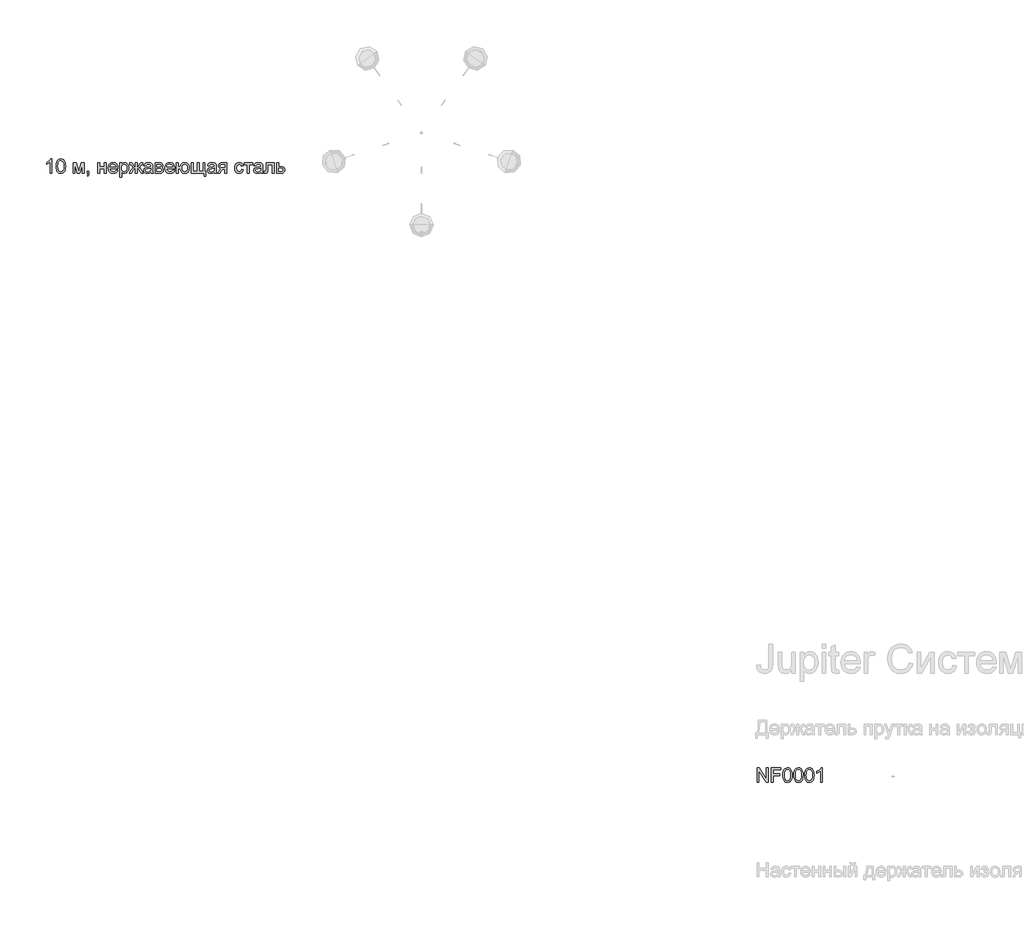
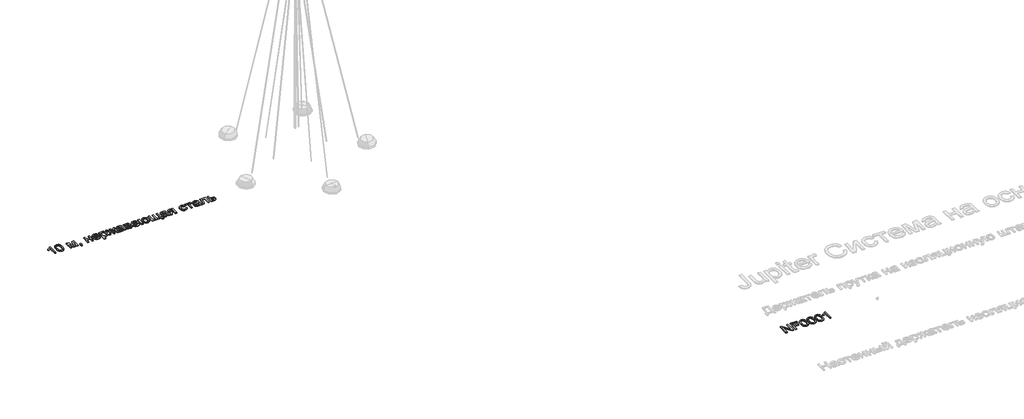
# One storey, part 34 of 124: 2 proxies.
"""IFC4 building model written with IfcOpenShell, lengths in millimetres."""

from ifc_helpers import new_model, si_unit, origin, origin_with_axes, place, context, project, spatial, polyline, outline, extrude, element, save

model = new_model("IFC4")

# Units and contexts
model_context = context("Model", 3, world=origin())
ifc_project = project(units=[si_unit("LENGTHUNIT", "METRE", prefix="MILLI")], contexts=[model_context])

# Site, building, storey
site = spatial("IfcSite", under=ifc_project)
building = spatial("IfcBuilding", under=site)
storey = spatial("IfcBuildingStorey", under=building, Name="Этаж 01", Elevation=0.0)

# Proxies
placement = place(None, origin())
element("IfcBuildingElementProxy", 1, Name="300", ObjectType="300", at=placement, inside=storey, context=model_context, shape_type="SweptSolid", body=[
    extrude(outline(polyline([(10526.9620852, -80707.4605888), (10489.2909689, -80707.4605888), (10489.2909689, -80472.604723), (10453.6064154, -80498.0253689), (10413.9487363, -80517.0448681), (10413.9487363, -80481.4338909), (10443.5356458, -80465.3390536), (10469.1678238, -80446.1907958), (10489.3737424, -80425.8285274), (10502.6818735, -80406.0916583), (10526.9620852, -80406.0916583), (10526.9620852, -80707.4605888)])), origin_with_axes(), (0.0, 0.0, 1.0), 20.0),
    extrude(outline(polyline([(10616.4309865, -80559.2041447), (10619.1992985, -80510.9656181), (10627.5042345, -80472.4943585), (10641.2630211, -80443.2017546), (10660.3928849, -80422.4991953), (10685.0317815, -80410.1935426), (10715.3176668, -80406.0916583), (10738.5310207, -80408.5196795), (10759.3163534, -80415.803743), (10776.6987777, -80427.6587403), (10789.7034062, -80443.7995628), (10799.5258555, -80464.0882549), (10807.361742, -80488.3868606), (10812.4936958, -80519.242963), (10814.2043471, -80559.2041447), (10811.4636262, -80607.1667598), (10803.2414636, -80645.546049), (10789.5654504, -80674.866244), (10770.4631778, -80695.6515767), (10745.7690989, -80708.0400029), (10715.3176668, -80712.1694783), (10694.5691222, -80710.3760536), (10676.1750225, -80704.9957794), (10660.1353675, -80696.0286558), (10646.4501573, -80683.4746827), (10633.31677, -80660.7809621), (10623.9357792, -80632.5046323), (10618.3071846, -80598.6456931), (10616.4309865, -80559.2041447)]), holes=[polyline([(10654.1021028, -80559.1305683), (10658.5166867, -80618.3871607), (10664.0349166, -80638.6551594), (10671.7604385, -80652.6829597), (10691.4789135, -80669.0445114), (10715.3176668, -80674.498362), (10739.15642, -80669.0261173), (10758.874895, -80652.6093833), (10766.6004169, -80638.5585903), (10772.1186468, -80618.2951902), (10776.5332308, -80559.1305683), (10772.2657996, -80501.2075482), (10766.9315107, -80481.0062281), (10759.4635062, -80466.6450347), (10739.7818194, -80449.4833397), (10714.8762084, -80443.7627746), (10691.2949725, -80448.802758), (10672.3490497, -80463.922708), (10664.3660104, -80479.5576928), (10658.6638395, -80500.6373311), (10654.1021028, -80559.1305683)])]), origin_with_axes(), (0.0, 0.0, 1.0), 20.0),
    extrude(outline(polyline([(10974.3065914, -80486.1427805), (11039.1273989, -80486.1427805), (11089.0857739, -80663.3147493), (11142.943698, -80486.1427805), (11205.0421787, -80486.1427805), (11205.0421787, -80707.4605888), (11167.3710624, -80707.4605888), (11167.3710624, -80529.2585503), (11113.2188327, -80707.4605888), (11063.7754926, -80707.4605888), (11011.9777077, -80520.723688), (11011.9777077, -80707.4605888), (10974.3065914, -80707.4605888), (10974.3065914, -80486.1427805)])), origin_with_axes(), (0.0, 0.0, 1.0), 20.0),
    extrude(outline(polyline([(11270.9666323, -80707.4605888), (11270.9666323, -80669.7894725), (11308.6377486, -80669.7894725), (11308.6377486, -80707.4605888), (11306.9454914, -80729.0092766), (11301.8687199, -80745.9778337), (11293.1131284, -80758.9916592), (11280.3844113, -80768.6761528), (11270.9666323, -80754.5494842), (11279.1336126, -80747.7252731), (11284.7989953, -80738.2891), (11289.728614, -80707.4605888), (11270.9666323, -80707.4605888)])), origin_with_axes(), (0.0, 0.0, 1.0), 20.0),
    extrude(outline(polyline([(11496.9933301, -80486.1427805), (11534.6644464, -80486.1427805), (11534.6644464, -80570.9027922), (11633.5511267, -80570.9027922), (11633.5511267, -80486.1427805), (11671.222243, -80486.1427805), (11671.222243, -80707.4605888), (11633.5511267, -80707.4605888), (11633.5511267, -80608.5739085), (11534.6644464, -80608.5739085), (11534.6644464, -80707.4605888), (11496.9933301, -80707.4605888), (11496.9933301, -80486.1427805)])), origin_with_axes(), (0.0, 0.0, 1.0), 20.0),
    extrude(outline(polyline([(11882.6808139, -80641.5361352), (11919.6161662, -80646.2450248), (11906.308035, -80674.0752977), (11885.0720468, -80694.8790245), (11856.3864482, -80707.8468649), (11820.7294859, -80712.1694783), (11797.3551836, -80710.3047764), (11776.5284641, -80704.7106709), (11758.2493275, -80695.3871615), (11742.5177737, -80682.3342485), (11729.8672316, -80665.9152152), (11720.8311301, -80646.4933451), (11715.4094692, -80624.0686383), (11713.6022489, -80598.6410946), (11715.4278633, -80572.3513275), (11720.9047065, -80549.1793603), (11730.0327785, -80529.1251931), (11742.8120793, -80512.1888257), (11758.5022464, -80498.7335418), (11776.3629172, -80489.1226246), (11796.3940919, -80483.3560744), (11818.5957703, -80481.4338909), (11840.0823781, -80483.3514758), (11859.5134452, -80489.1042305), (11876.8889717, -80498.692155), (11892.2089575, -80512.1152493), (11904.7146461, -80529.0148285), (11913.6472808, -80549.0322075), (11919.0068616, -80572.1673865), (11920.7933886, -80598.4203654), (11920.5726594, -80608.5739085), (11751.2733652, -80608.5739085), (11757.7940735, -80636.7720634), (11772.9416147, -80657.5022138), (11794.8030023, -80670.249325), (11821.4652499, -80674.498362), (11841.5148186, -80672.5301933), (11858.4006022, -80666.6256873), (11872.1226006, -80656.4169619), (11882.6808139, -80641.5361352)]), holes=[polyline([(11751.2733652, -80570.9027922), (11883.1222722, -80570.9027922), (11878.0271066, -80551.0003762), (11868.0391104, -80536.763343), (11846.0765553, -80523.5195912), (11818.4486175, -80519.1050072), (11793.0555628, -80522.6274773), (11772.0586979, -80533.1948877), (11757.4629797, -80549.666804), (11751.2733652, -80570.9027922)])]), origin_with_axes(), (0.0, 0.0, 1.0), 20.0),
    extrude(outline(polyline([(11958.4645049, -80792.2206005), (11958.4645049, -80486.1427805), (11996.1356212, -80486.1427805), (11996.1356212, -80523.0781328), (12008.4228798, -80504.858777), (12022.1816664, -80491.8449514), (12038.2213214, -80484.036656), (12057.3511852, -80481.4338909), (12082.8270133, -80485.0759227), (12105.1022681, -80496.0020179), (12123.2388505, -80513.5499891), (12136.2986613, -80537.0576486), (12144.1897301, -80564.8143451), (12146.8200864, -80595.1094274), (12143.8494393, -80627.3266932), (12134.9374979, -80656.1410504), (12120.3693709, -80680.0901683), (12100.4301668, -80697.7117159), (12077.2076159, -80708.5550377), (12052.7894484, -80712.1694783), (12035.4714035, -80709.7506542), (12020.0111627, -80702.4941818), (12006.7766079, -80691.5404954), (11996.1356212, -80678.0300292), (11996.1356212, -80792.2206005), (11958.4645049, -80792.2206005)]), holes=[polyline([(11996.1356212, -80598.5675182), (12000.2099143, -80632.3390854), (12012.4327936, -80655.9571094), (12030.4682084, -80669.8630489), (12051.980108, -80674.498362), (12073.8414956, -80669.697502), (12092.3367629, -80655.2949219), (12104.9459183, -80630.8123751), (12109.1489701, -80595.771615), (12105.0470858, -80562.1839889), (12092.7414331, -80538.234871), (12074.7336094, -80523.8874732), (12053.5252124, -80519.1050072), (12032.2340419, -80524.1909758), (12013.5364395, -80539.4488816), (12000.4858258, -80564.4004779), (11996.1356212, -80598.5675182)])]), origin_with_axes(), (0.0, 0.0, 1.0), 20.0),
    extrude(outline(polyline([(12325.7578888, -80486.1427805), (12325.7578888, -80580.3205712), (12339.0476259, -80578.3799937), (12347.720444, -80572.5582611), (12368.5057767, -80532.2751827), (12381.473617, -80507.1672365), (12393.3010232, -80493.6475732), (12407.6668151, -80488.0189786), (12428.5441183, -80486.1427805), (12443.4801273, -80486.1427805), (12443.4801273, -80524.034626), (12433.105855, -80523.8138968), (12413.6816857, -80527.7134459), (12400.2172047, -80552.1408104), (12384.5822199, -80578.9226197), (12362.2517828, -80592.5342535), (12374.6448075, -80597.8363527), (12386.8814823, -80607.194351), (12410.8857825, -80638.0780445), (12452.8979064, -80707.4605888), (12409.7085601, -80707.4605888), (12368.3586239, -80639.0345377), (12357.0554496, -80621.0726993), (12347.2789856, -80610.5972594), (12337.3921569, -80605.5480791), (12325.7578888, -80603.8650189), (12325.7578888, -80707.4605888), (12288.0867725, -80707.4605888), (12288.0867725, -80603.8650189), (12276.5444749, -80605.5112909), (12266.6392522, -80610.4501066), (12256.7892118, -80620.8519701), (12245.4124611, -80638.8873849), (12204.0625248, -80707.4605888), (12160.946755, -80707.4605888), (12202.8117261, -80638.0780445), (12226.9999672, -80607.194351), (12239.3010215, -80597.8363527), (12251.7400314, -80592.5342535), (12237.3558454, -80585.3237664), (12228.0484309, -80577.5246681), (12207.7413448, -80538.8970586), (12197.8085309, -80526.1683415), (12181.5481467, -80523.5931676), (12170.3645341, -80523.8138968), (12170.3645341, -80486.1427805), (12176.0299168, -80486.1427805), (12209.06572, -80488.4972252), (12226.2090209, -80498.5036155), (12245.4124611, -80532.2751827), (12265.9770646, -80572.3007437), (12274.6498827, -80578.3156144), (12288.0867725, -80580.3205712), (12288.0867725, -80486.1427805), (12325.7578888, -80486.1427805)])), origin_with_axes(), (0.0, 0.0, 1.0), 20.0),
    extrude(outline(polyline([(12613.0001507, -80679.2072515), (12595.0015241, -80694.6399012), (12576.4694686, -80704.738262), (12556.9809199, -80710.3116742), (12536.1128137, -80712.1694783), (12504.6313119, -80707.6997121), (12481.408761, -80694.2904133), (12467.0889543, -80673.9281449), (12462.3156855, -80648.5994695), (12464.1183072, -80632.9828788), (12469.5261726, -80618.8010279), (12477.8678968, -80606.6609221), (12488.4720953, -80597.1695666), (12514.8492344, -80584.8087316), (12547.4435791, -80579.1433489), (12585.960824, -80573.1836605), (12612.7794215, -80566.1939026), (12613.0001507, -80557.8061931), (12610.4065826, -80540.993986), (12602.6258784, -80529.9943143), (12585.22506, -80521.827334), (12560.9816366, -80519.1050072), (12538.5408349, -80520.9168261), (12522.8690619, -80526.3522825), (12512.1820899, -80536.4046581), (12504.6956913, -80552.067234), (12467.024575, -80547.3583445), (12473.5636775, -80526.7569527), (12483.3217474, -80510.570145), (12497.2092927, -80498.1909158), (12516.1368213, -80489.01226), (12539.2857959, -80483.3284832), (12565.8376789, -80481.4338909), (12591.30431, -80483.107754), (12611.4918345, -80488.1293432), (12626.712952, -80495.6801212), (12637.2803624, -80504.9415504), (12644.2885144, -80516.3918775), (12648.831857, -80530.5093491), (12650.671267, -80563.4715759), (12650.671267, -80610.339742), (12652.5842534, -80675.785949), (12660.0890461, -80707.4605888), (12622.4179298, -80707.4605888), (12613.0001507, -80679.2072515)]), holes=[polyline([(12613.0001507, -80603.8650189), (12552.2260451, -80615.4165136), (12519.8156413, -80621.5233547), (12505.1371497, -80631.4561686), (12499.9868018, -80645.9507192), (12502.791902, -80657.1527259), (12511.2072026, -80666.3313817), (12525.0487627, -80672.4566169), (12544.1326412, -80674.498362), (12564.3661509, -80672.2450848), (12582.2452159, -80665.4852531), (12596.7397665, -80655.5248481), (12606.8197332, -80643.6698508), (12611.2894994, -80631.4561686), (12612.7794215, -80614.5335968), (12613.0001507, -80603.8650189)])]), origin_with_axes(), (0.0, 0.0, 1.0), 20.0),
    extrude(outline(polyline([(12702.4690519, -80486.1427805), (12785.46323, -80486.1427805), (12812.1438717, -80487.4027763), (12830.9702328, -80491.1827638), (12844.8209899, -80498.3196745), (12856.5748197, -80509.65044), (12864.6038442, -80524.411705), (12867.2801857, -80541.8401145), (12865.661505, -80555.8840097), (12860.8054626, -80567.9965244), (12852.6936646, -80578.2328409), (12841.3077169, -80586.6481416), (12855.2504445, -80594.474831), (12866.6179982, -80607.0655923), (12874.1779732, -80623.427144), (12876.6979648, -80642.5662048), (12870.3152122, -80671.2793945), (12855.1400799, -80691.4945102), (12831.1173856, -80703.4690691), (12798.191947, -80707.4605888), (12702.4690519, -80707.4605888), (12702.4690519, -80486.1427805)]), holes=[polyline([(12740.1401682, -80570.9027922), (12777.3698261, -80570.9027922), (12808.0879727, -80568.9898058), (12823.0239817, -80561.3378603), (12827.9627975, -80555.01029), (12829.6090694, -80547.5054973), (12826.7211958, -80536.2667023), (12818.0575748, -80529.0378211), (12802.4041959, -80525.1198779), (12778.5470485, -80523.8138968), (12740.1401682, -80523.8138968), (12740.1401682, -80570.9027922)]), polyline([(12740.1401682, -80669.7894725), (12786.3461468, -80669.7894725), (12811.5276694, -80668.0880182), (12827.3282011, -80662.9836556), (12835.8078811, -80653.7038322), (12839.0268485, -80639.4759961), (12837.4173648, -80630.0490199), (12832.5889136, -80621.3394137), (12825.1760914, -80614.5243997), (12815.8134946, -80610.7812004), (12782.6673269, -80608.5739085), (12740.1401682, -80608.5739085), (12740.1401682, -80669.7894725)])]), origin_with_axes(), (0.0, 0.0, 1.0), 20.0),
    extrude(outline(polyline([(13078.7387566, -80641.5361352), (13115.6741089, -80646.2450248), (13102.3659777, -80674.0752977), (13081.1299895, -80694.8790245), (13052.444391, -80707.8468649), (13016.7874286, -80712.1694783), (12993.4131263, -80710.3047764), (12972.5864069, -80704.7106709), (12954.3072702, -80695.3871615), (12938.5757164, -80682.3342485), (12925.9251743, -80665.9152152), (12916.8890728, -80646.4933451), (12911.4674119, -80624.0686383), (12909.6601916, -80598.6410946), (12911.485806, -80572.3513275), (12916.9626492, -80549.1793603), (12926.0907212, -80529.1251931), (12938.870022, -80512.1888257), (12954.5601891, -80498.7335418), (12972.42086, -80489.1226246), (12992.4520346, -80483.3560744), (13014.653713, -80481.4338909), (13036.1403208, -80483.3514758), (13055.5713879, -80489.1042305), (13072.9469144, -80498.692155), (13088.2669002, -80512.1152493), (13100.7725888, -80529.0148285), (13109.7052235, -80549.0322075), (13115.0648043, -80572.1673865), (13116.8513313, -80598.4203654), (13116.6306021, -80608.5739085), (12947.3313079, -80608.5739085), (12953.8520163, -80636.7720634), (12968.9995574, -80657.5022138), (12990.860945, -80670.249325), (13017.5231926, -80674.498362), (13037.5727613, -80672.5301933), (13054.4585449, -80666.6256873), (13068.1805433, -80656.4169619), (13078.7387566, -80641.5361352)]), holes=[polyline([(12947.3313079, -80570.9027922), (13079.180215, -80570.9027922), (13074.0850493, -80551.0003762), (13064.0970532, -80536.763343), (13042.1344981, -80523.5195912), (13014.5065602, -80519.1050072), (12989.1135055, -80522.6274773), (12968.1166406, -80533.1948877), (12953.5209225, -80549.666804), (12947.3313079, -80570.9027922)])]), origin_with_axes(), (0.0, 0.0, 1.0), 20.0),
    extrude(outline(polyline([(13154.5224476, -80486.1427805), (13192.1935639, -80486.1427805), (13192.1935639, -80570.9027922), (13234.5735697, -80570.9027922), (13244.3500337, -80532.4959119), (13252.8733997, -80517.1552327), (13263.8201883, -80504.3897274), (13276.8822984, -80494.346549), (13291.7516288, -80487.1728501), (13326.9119505, -80481.4338909), (13356.4620718, -80484.8092082), (13379.0408292, -80494.9351602), (13396.4600417, -80510.9840122), (13410.531528, -80532.1280299), (13419.8297454, -80559.9399087), (13422.9291513, -80595.9923442), (13421.3265653, -80622.8477299), (13416.5188075, -80646.2450248), (13408.5058778, -80666.1842289), (13397.2877762, -80682.6653423), (13383.3243552, -80695.5734018), (13367.0754673, -80704.7934443), (13348.5411126, -80710.3254698), (13327.7212909, -80712.1694783), (13308.3178149, -80710.4404329), (13290.9422884, -80705.2532968), (13275.5947115, -80696.6080699), (13262.275084, -80684.5047523), (13251.3144998, -80669.3848023), (13243.0440527, -80651.6896783), (13234.5735697, -80608.5739085), (13192.1935639, -80608.5739085), (13192.1935639, -80707.4605888), (13154.5224476, -80707.4605888), (13154.5224476, -80486.1427805)]), holes=[polyline([(13329.3399717, -80519.1050072), (13305.3264745, -80523.9794437), (13287.2910596, -80538.602753), (13276.0062794, -80562.018442), (13272.244686, -80593.2700175), (13276.0338706, -80629.6811379), (13287.4014242, -80654.8902517), (13305.1149423, -80669.5963344), (13327.9420201, -80674.498362), (13350.8334773, -80669.9642164), (13369.1815918, -80656.3617796), (13381.2389242, -80632.6609821), (13385.258035, -80597.8317542), (13381.7815501, -80563.3888024), (13371.3520955, -80538.786694), (13353.8960949, -80524.0254289), (13329.3399717, -80519.1050072)])]), origin_with_axes(), (0.0, 0.0, 1.0), 20.0),
    extrude(outline(polyline([(13470.0180466, -80486.1427805), (13507.6891629, -80486.1427805), (13507.6891629, -80669.7894725), (13592.4491746, -80669.7894725), (13592.4491746, -80486.1427805), (13630.1202909, -80486.1427805), (13630.1202909, -80669.7894725), (13714.8803026, -80669.7894725), (13714.8803026, -80486.1427805), (13752.5514189, -80486.1427805), (13752.5514189, -80669.7894725), (13776.0958666, -80669.7894725), (13776.0958666, -80768.6761528), (13738.4247503, -80768.6761528), (13738.4247503, -80707.4605888), (13470.0180466, -80707.4605888), (13470.0180466, -80486.1427805)])), origin_with_axes(), (0.0, 0.0, 1.0), 20.0),
    extrude(outline(polyline([(13955.0336691, -80679.2072515), (13937.0350425, -80694.6399012), (13918.502987, -80704.738262), (13899.0144383, -80710.3116742), (13878.1463321, -80712.1694783), (13846.6648304, -80707.6997121), (13823.4422794, -80694.2904133), (13809.1224727, -80673.9281449), (13804.3492039, -80648.5994695), (13806.1518256, -80632.9828788), (13811.559691, -80618.8010279), (13819.9014152, -80606.6609221), (13830.5056137, -80597.1695666), (13856.8827528, -80584.8087316), (13889.4770975, -80579.1433489), (13927.9943424, -80573.1836605), (13954.8129399, -80566.1939026), (13955.0336691, -80557.8061931), (13952.440101, -80540.993986), (13944.6593968, -80529.9943143), (13927.2585784, -80521.827334), (13903.015155, -80519.1050072), (13880.5743533, -80520.9168261), (13864.9025803, -80526.3522825), (13854.2156083, -80536.4046581), (13846.7292097, -80552.067234), (13809.0580934, -80547.3583445), (13815.5971959, -80526.7569527), (13825.3552658, -80510.570145), (13839.2428111, -80498.1909158), (13858.1703398, -80489.01226), (13881.3193143, -80483.3284832), (13907.8711973, -80481.4338909), (13933.3378284, -80483.107754), (13953.5253529, -80488.1293432), (13968.7464705, -80495.6801212), (13979.3138808, -80504.9415504), (13986.3220328, -80516.3918775), (13990.8653754, -80530.5093491), (13992.7047854, -80563.4715759), (13992.7047854, -80610.339742), (13994.6177718, -80675.785949), (14002.1225645, -80707.4605888), (13964.4514482, -80707.4605888), (13955.0336691, -80679.2072515)]), holes=[polyline([(13955.0336691, -80603.8650189), (13894.2595635, -80615.4165136), (13861.8491597, -80621.5233547), (13847.1706681, -80631.4561686), (13842.0203202, -80645.9507192), (13844.8254204, -80657.1527259), (13853.240721, -80666.3313817), (13867.0822811, -80672.4566169), (13886.1661596, -80674.498362), (13906.3996693, -80672.2450848), (13924.2787343, -80665.4852531), (13938.7732849, -80655.5248481), (13948.8532516, -80643.6698508), (13953.3230178, -80631.4561686), (13954.8129399, -80614.5335968), (13955.0336691, -80603.8650189)])]), origin_with_axes(), (0.0, 0.0, 1.0), 20.0),
    extrude(outline(polyline([(14214.0225937, -80486.1427805), (14214.0225937, -80707.4605888), (14176.3514774, -80707.4605888), (14176.3514774, -80622.7005771), (14155.823662, -80622.7005771), (14127.8646304, -80627.483043), (14116.6994119, -80637.9124976), (14101.597856, -80659.6359294), (14071.5786852, -80707.4605888), (14028.0214569, -80707.4605888), (14065.839726, -80646.9807888), (14082.5415686, -80625.275751), (14097.919036, -80615.6372428), (14072.1672963, -80607.746174), (14054.0675022, -80592.7549827), (14043.3621361, -80572.8157785), (14039.7936808, -80550.0806712), (14044.6681172, -80524.2921434), (14059.2914265, -80503.8746926), (14083.1485739, -80490.5757585), (14115.7245246, -80486.1427805), (14214.0225937, -80486.1427805)]), holes=[polyline([(14176.3514774, -80523.8138968), (14126.687408, -80523.8138968), (14101.0368359, -80525.9935976), (14086.477906, -80532.5327001), (14079.7180743, -80541.9964644), (14077.4647971, -80552.9501508), (14080.7849321, -80567.3067457), (14090.7453371, -80577.2671507), (14109.1486339, -80583.0888833), (14137.7974443, -80585.0294608), (14176.3514774, -80585.0294608), (14176.3514774, -80523.8138968)])]), origin_with_axes(), (0.0, 0.0, 1.0), 20.0),
    extrude(outline(polyline([(14529.5181928, -80627.4094666), (14567.1893091, -80632.1183562), (14556.6862781, -80665.6232089), (14536.9494091, -80690.9426872), (14509.836506, -80706.8627805), (14477.205373, -80712.1694783), (14456.0774502, -80710.318572), (14437.1338267, -80704.7658532), (14420.3745026, -80695.5113217), (14405.7994778, -80682.5549777), (14394.001962, -80666.1405429), (14385.5751651, -80646.5117392), (14380.5190869, -80623.6685666), (14378.8337275, -80597.611025), (14381.7124041, -80564.0877782), (14390.348434, -80535.0342976), (14404.8797728, -80511.5726234), (14425.4443763, -80494.8247956), (14450.0464847, -80484.7816171), (14476.6903382, -80481.4338909), (14508.5213279, -80486.0324159), (14533.9695649, -80499.8279907), (14552.2257089, -80522.0848514), (14562.4804195, -80552.067234), (14524.8093032, -80556.7761235), (14517.9758952, -80540.3409954), (14507.3349084, -80528.5595745), (14493.4749543, -80521.4686491), (14476.9846438, -80519.1050072), (14452.6400528, -80523.7587145), (14433.317051, -80537.7198362), (14420.7078956, -80561.7425305), (14416.5048438, -80596.5809554), (14420.6159251, -80631.8884299), (14432.949169, -80655.9938976), (14451.9226829, -80669.8722459), (14475.9545743, -80674.498362), (14495.461517, -80671.6104883), (14511.4551868, -80662.9468674), (14523.0894549, -80648.2867698), (14529.5181928, -80627.4094666)])), origin_with_axes(), (0.0, 0.0, 1.0), 20.0),
    extrude(outline(polyline([(14581.3159777, -80486.1427805), (14760.2537801, -80486.1427805), (14760.2537801, -80523.8138968), (14689.6204371, -80523.8138968), (14689.6204371, -80707.4605888), (14651.9493207, -80707.4605888), (14651.9493207, -80523.8138968), (14581.3159777, -80523.8138968), (14581.3159777, -80486.1427805)])), origin_with_axes(), (0.0, 0.0, 1.0), 20.0),
    extrude(outline(polyline([(14934.482693, -80679.2072515), (14916.4840664, -80694.6399012), (14897.9520109, -80704.738262), (14878.4634622, -80710.3116742), (14857.595356, -80712.1694783), (14826.1138543, -80707.6997121), (14802.8913034, -80694.2904133), (14788.5714967, -80673.9281449), (14783.7982278, -80648.5994695), (14785.6008496, -80632.9828788), (14791.0087149, -80618.8010279), (14799.3504392, -80606.6609221), (14809.9546377, -80597.1695666), (14836.3317767, -80584.8087316), (14868.9261215, -80579.1433489), (14907.4433664, -80573.1836605), (14934.2619638, -80566.1939026), (14934.482693, -80557.8061931), (14931.889125, -80540.993986), (14924.1084208, -80529.9943143), (14906.7076024, -80521.827334), (14882.4641789, -80519.1050072), (14860.0233772, -80520.9168261), (14844.3516042, -80526.3522825), (14833.6646323, -80536.4046581), (14826.1782337, -80552.067234), (14788.5071174, -80547.3583445), (14795.0462198, -80526.7569527), (14804.8042897, -80510.570145), (14818.6918351, -80498.1909158), (14837.6193637, -80489.01226), (14860.7683383, -80483.3284832), (14887.3202213, -80481.4338909), (14912.7868524, -80483.107754), (14932.9743769, -80488.1293432), (14948.1954944, -80495.6801212), (14958.7629047, -80504.9415504), (14965.7710567, -80516.3918775), (14970.3143994, -80530.5093491), (14972.1538093, -80563.4715759), (14972.1538093, -80610.339742), (14974.0667957, -80675.785949), (14981.5715884, -80707.4605888), (14943.9004721, -80707.4605888), (14934.482693, -80679.2072515)]), holes=[polyline([(14934.482693, -80603.8650189), (14873.7085874, -80615.4165136), (14841.2981837, -80621.5233547), (14826.6196921, -80631.4561686), (14821.4693441, -80645.9507192), (14824.2744443, -80657.1527259), (14832.689745, -80666.3313817), (14846.531305, -80672.4566169), (14865.6151835, -80674.498362), (14885.8486933, -80672.2450848), (14903.7277582, -80665.4852531), (14918.2223089, -80655.5248481), (14928.3022755, -80643.6698508), (14932.7720418, -80631.4561686), (14934.2619638, -80614.5335968), (14934.482693, -80603.8650189)])]), origin_with_axes(), (0.0, 0.0, 1.0), 20.0),
    extrude(outline(polyline([(15042.7871524, -80486.1427805), (15212.3071758, -80486.1427805), (15212.3071758, -80707.2398596), (15174.6360595, -80707.2398596), (15174.6360595, -80523.8138968), (15080.4582687, -80523.8138968), (15080.4582687, -80629.3960294), (15077.919883, -80678.1036056), (15073.1650082, -80689.1308684), (15063.9771553, -80698.6682091), (15050.0344277, -80705.2624938), (15031.0149286, -80707.4605888), (15000.4071466, -80705.5476024), (15000.4071466, -80669.7894725), (15017.256142, -80669.7894725), (15034.2890783, -80667.4718159), (15041.0948952, -80660.114176), (15042.7871524, -80627.2623138), (15042.7871524, -80486.1427805)])), origin_with_axes(), (0.0, 0.0, 1.0), 20.0),
    extrude(outline(polyline([(15268.8138503, -80486.1427805), (15306.4849666, -80486.1427805), (15306.4849666, -80566.1939026), (15349.895042, -80566.1939026), (15387.5293701, -80570.9119892), (15402.6769113, -80576.8095974), (15415.3780371, -80585.066249), (15425.4212156, -80595.3968353), (15432.5949145, -80607.5162477), (15438.3338736, -80637.1215513), (15433.4502401, -80664.0781045), (15418.7993397, -80686.8224088), (15407.5674425, -80695.8516126), (15393.406285, -80702.3010438), (15356.2961887, -80707.4605888), (15268.8138503, -80707.4605888), (15268.8138503, -80486.1427805)]), holes=[polyline([(15306.4849666, -80669.7894725), (15341.6544853, -80669.7894725), (15368.9421323, -80667.8121067), (15387.0879117, -80661.8800096), (15397.2690459, -80651.7540577), (15400.6627573, -80637.1951277), (15398.1519627, -80624.889475), (15390.6195789, -80614.018562), (15374.4787563, -80606.4034047), (15346.1426456, -80603.8650189), (15306.4849666, -80603.8650189), (15306.4849666, -80669.7894725)])]), origin_with_axes(), (0.0, 0.0, 1.0), 20.0),
])
element("IfcBuildingElementProxy", 2, Name="300", ObjectType="300", at=placement, inside=storey, context=model_context, shape_type="SweptSolid", body=[
    extrude(outline(polyline([(25399.8220677, -93548.8731539), (25399.8220677, -93247.5042234), (25440.1419344, -93247.5042234), (25597.5954283, -93486.2596383), (25597.5954283, -93247.5042234), (25635.2665446, -93247.5042234), (25635.2665446, -93548.8731539), (25594.9466779, -93548.8731539), (25437.493184, -93310.0441626), (25437.493184, -93548.8731539), (25399.8220677, -93548.8731539)])), origin_with_axes(), (0.0, 0.0, 1.0), 20.0),
    extrude(outline(polyline([(25701.1909981, -93548.8731539), (25701.1909981, -93247.5042234), (25903.6732483, -93247.5042234), (25903.6732483, -93285.1753397), (25738.8621144, -93285.1753397), (25738.8621144, -93374.644241), (25880.1288006, -93374.644241), (25880.1288006, -93412.3153573), (25738.8621144, -93412.3153573), (25738.8621144, -93548.8731539), (25701.1909981, -93548.8731539)])), origin_with_axes(), (0.0, 0.0, 1.0), 20.0),
    extrude(outline(polyline([(25941.3443646, -93400.6167098), (25944.1126766, -93352.3781832), (25952.4176126, -93313.9069236), (25966.1763993, -93284.6143197), (25985.306263, -93263.9117604), (26009.9451596, -93251.6061077), (26040.2310449, -93247.5042234), (26063.4443988, -93249.9322446), (26084.2297315, -93257.2163081), (26101.6121558, -93269.0713054), (26114.6167843, -93285.2121279), (26124.4392336, -93305.50082), (26132.2751201, -93329.7994258), (26137.4070739, -93360.6555281), (26139.1177252, -93400.6167098), (26136.3770043, -93448.579325), (26128.1548417, -93486.9586141), (26114.4788286, -93516.2788091), (26095.376556, -93537.0641418), (26070.682477, -93549.452568), (26040.2310449, -93553.5820434), (26019.4825004, -93551.7886187), (26001.0884006, -93546.4083445), (25985.0487456, -93537.4412209), (25971.3635354, -93524.8872478), (25958.2301482, -93502.1935272), (25948.8491573, -93473.9171974), (25943.2205628, -93440.0582582), (25941.3443646, -93400.6167098)]), holes=[polyline([(25979.0154809, -93400.5431334), (25983.4300648, -93459.7997258), (25988.9482948, -93480.0677245), (25996.6738167, -93494.0955248), (26016.3922916, -93510.4570765), (26040.2310449, -93515.9109271), (26064.0697982, -93510.4386824), (26083.7882731, -93494.0219484), (26091.513795, -93479.9711555), (26097.032025, -93459.7077553), (26101.4466089, -93400.5431334), (26097.1791778, -93342.6201133), (26091.8448888, -93322.4187932), (26084.3768843, -93308.0575998), (26064.6951976, -93290.8959048), (26039.7895865, -93285.1753397), (26016.2083506, -93290.2153231), (25997.2624279, -93305.3352731), (25989.2793886, -93320.9702579), (25983.5772176, -93342.0498962), (25979.0154809, -93400.5431334)])]), origin_with_axes(), (0.0, 0.0, 1.0), 20.0),
    extrude(outline(polyline([(26172.079952, -93400.6167098), (26174.848264, -93352.3781832), (26183.1532, -93313.9069236), (26196.9119866, -93284.6143197), (26216.0418504, -93263.9117604), (26240.680747, -93251.6061077), (26270.9666323, -93247.5042234), (26294.1799862, -93249.9322446), (26314.9653189, -93257.2163081), (26332.3477432, -93269.0713054), (26345.3523717, -93285.2121279), (26355.174821, -93305.50082), (26363.0107075, -93329.7994258), (26368.1426613, -93360.6555281), (26369.8533126, -93400.6167098), (26367.1125917, -93448.579325), (26358.8904291, -93486.9586141), (26345.2144159, -93516.2788091), (26326.1121433, -93537.0641418), (26301.4180644, -93549.452568), (26270.9666323, -93553.5820434), (26250.2180877, -93551.7886187), (26231.823988, -93546.4083445), (26215.784333, -93537.4412209), (26202.0991228, -93524.8872478), (26188.9657355, -93502.1935272), (26179.5847447, -93473.9171974), (26173.9561501, -93440.0582582), (26172.079952, -93400.6167098)]), holes=[polyline([(26209.7510683, -93400.5431334), (26214.1656522, -93459.7997258), (26219.6838821, -93480.0677245), (26227.409404, -93494.0955248), (26247.127879, -93510.4570765), (26270.9666323, -93515.9109271), (26294.8053856, -93510.4386824), (26314.5238605, -93494.0219484), (26322.2493824, -93479.9711555), (26327.7676123, -93459.7077553), (26332.1821963, -93400.5431334), (26327.9147651, -93342.6201133), (26322.5804762, -93322.4187932), (26315.1124717, -93308.0575998), (26295.430785, -93290.8959048), (26270.5251739, -93285.1753397), (26246.943938, -93290.2153231), (26227.9980152, -93305.3352731), (26220.0149759, -93320.9702579), (26214.312805, -93342.0498962), (26209.7510683, -93400.5431334)])]), origin_with_axes(), (0.0, 0.0, 1.0), 20.0),
    extrude(outline(polyline([(26402.8155393, -93400.6167098), (26405.5838514, -93352.3781832), (26413.8887874, -93313.9069236), (26427.647574, -93284.6143197), (26446.7774378, -93263.9117604), (26471.4163344, -93251.6061077), (26501.7022196, -93247.5042234), (26524.9155735, -93249.9322446), (26545.7009063, -93257.2163081), (26563.0833305, -93269.0713054), (26576.0879591, -93285.2121279), (26585.9104083, -93305.50082), (26593.7462948, -93329.7994258), (26598.8782487, -93360.6555281), (26600.5889, -93400.6167098), (26597.8481791, -93448.579325), (26589.6260165, -93486.9586141), (26575.9500033, -93516.2788091), (26556.8477307, -93537.0641418), (26532.1536518, -93549.452568), (26501.7022196, -93553.5820434), (26480.9536751, -93551.7886187), (26462.5595754, -93546.4083445), (26446.5199204, -93537.4412209), (26432.8347102, -93524.8872478), (26419.7013229, -93502.1935272), (26410.320332, -93473.9171974), (26404.6917375, -93440.0582582), (26402.8155393, -93400.6167098)]), holes=[polyline([(26440.4866556, -93400.5431334), (26444.9012396, -93459.7997258), (26450.4194695, -93480.0677245), (26458.1449914, -93494.0955248), (26477.8634664, -93510.4570765), (26501.7022196, -93515.9109271), (26525.5409729, -93510.4386824), (26545.2594479, -93494.0219484), (26552.9849698, -93479.9711555), (26558.5031997, -93459.7077553), (26562.9177836, -93400.5431334), (26558.6503525, -93342.6201133), (26553.3160636, -93322.4187932), (26545.8480591, -93308.0575998), (26526.1663723, -93290.8959048), (26501.2607613, -93285.1753397), (26477.6795254, -93290.2153231), (26458.7336026, -93305.3352731), (26450.7505633, -93320.9702579), (26445.0483924, -93342.0498962), (26440.4866556, -93400.5431334)])]), origin_with_axes(), (0.0, 0.0, 1.0), 20.0),
    extrude(outline(polyline([(26774.8178129, -93548.8731539), (26737.1466966, -93548.8731539), (26737.1466966, -93314.0172882), (26701.462143, -93339.437934), (26661.8044639, -93358.4574332), (26661.8044639, -93322.846456), (26691.3913734, -93306.7516188), (26717.0235514, -93287.6033609), (26737.22947, -93267.2410925), (26750.5376012, -93247.5042234), (26774.8178129, -93247.5042234), (26774.8178129, -93548.8731539)])), origin_with_axes(), (0.0, 0.0, 1.0), 20.0),
])

save(model, "model.ifc")
